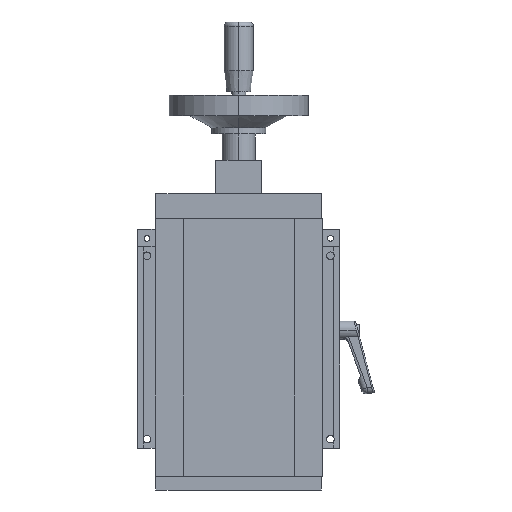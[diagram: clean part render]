
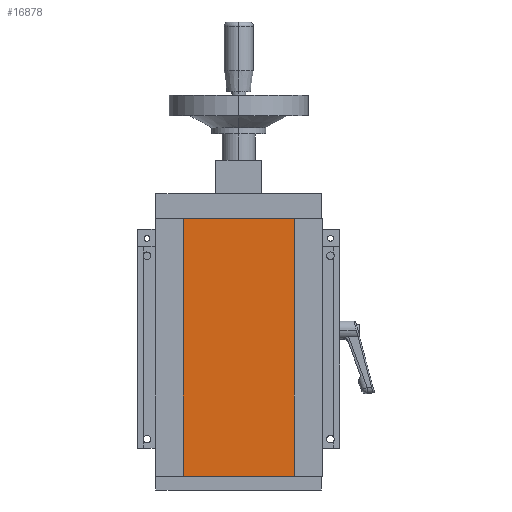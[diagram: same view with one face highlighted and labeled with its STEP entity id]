
A CAD part, front view. The second image highlights one B-rep face of the part: STEP entity #16878.
In plain terms, the highlighted planar face has unit normal (0, -1, 0).
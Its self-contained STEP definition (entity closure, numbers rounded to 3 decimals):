
#16878 = ADVANCED_FACE ( 'NONE', ( #15226 ), #15227, .F. ) ;
#4478 = VERTEX_POINT ( 'NONE', #11915 ) ;
#4727 = EDGE_CURVE ( 'NONE', #4478, #5709, #12046, .T. ) ;
#4855 = EDGE_CURVE ( 'NONE', #5829, #4478, #12121, .T. ) ;
#5262 = ORIENTED_EDGE ( 'NONE', *, *, #4855, .T. ) ;
#5709 = VERTEX_POINT ( 'NONE', #12569 ) ;
#5829 = VERTEX_POINT ( 'NONE', #12632 ) ;
#6074 = EDGE_CURVE ( 'NONE', #5829, #6407, #12844, .T. ) ;
#6290 = ORIENTED_EDGE ( 'NONE', *, *, #6074, .F. ) ;
#6407 = VERTEX_POINT ( 'NONE', #13490 ) ;
#6458 = EDGE_CURVE ( 'NONE', #6407, #5709, #13658, .T. ) ;
#6546 = ORIENTED_EDGE ( 'NONE', *, *, #6458, .F. ) ;
#6668 = ORIENTED_EDGE ( 'NONE', *, *, #4727, .T. ) ;
#6787 = EDGE_LOOP ( 'NONE', ( #6668, #6546, #6290, #5262 ) ) ;
#11915 = CARTESIAN_POINT ( 'NONE',  ( -41.155, 0., -92.5 ) ) ;
#12046 = LINE ( 'NONE', #12047, #12048 ) ;
#12047 = CARTESIAN_POINT ( 'NONE',  ( -41.155, 0., -92.5 ) ) ;
#12048 = VECTOR ( 'NONE', #12049, 1000. ) ;
#12049 = DIRECTION ( 'NONE',  ( 1., 0., 0. ) ) ;
#12121 = LINE ( 'NONE', #12122, #12123 ) ;
#12122 = CARTESIAN_POINT ( 'NONE',  ( -41.155, 0., 92.5 ) ) ;
#12123 = VECTOR ( 'NONE', #12124, 1000. ) ;
#12124 = DIRECTION ( 'NONE',  ( 0., 0., -1. ) ) ;
#12569 = CARTESIAN_POINT ( 'NONE',  ( 41.155, 0., -92.5 ) ) ;
#12632 = CARTESIAN_POINT ( 'NONE',  ( -41.155, 0., 92.5 ) ) ;
#12844 = LINE ( 'NONE', #12845, #12846 ) ;
#12845 = CARTESIAN_POINT ( 'NONE',  ( -41.155, 0., 92.5 ) ) ;
#12846 = VECTOR ( 'NONE', #12847, 1000. ) ;
#12847 = DIRECTION ( 'NONE',  ( 1., 0., 0. ) ) ;
#13490 = CARTESIAN_POINT ( 'NONE',  ( 41.155, 0., 92.5 ) ) ;
#13658 = LINE ( 'NONE', #13659, #13660 ) ;
#13659 = CARTESIAN_POINT ( 'NONE',  ( 41.155, 0., 92.5 ) ) ;
#13660 = VECTOR ( 'NONE', #13661, 1000. ) ;
#13661 = DIRECTION ( 'NONE',  ( 0., 0., -1. ) ) ;
#15226 = FACE_OUTER_BOUND ( 'NONE', #6787, .T. ) ;
#15227 = PLANE ( 'NONE',  #15228 ) ;
#15228 = AXIS2_PLACEMENT_3D ( 'NONE', #15229, #15230, #15231 ) ;
#15229 = CARTESIAN_POINT ( 'NONE',  ( -41.155, 0., 92.5 ) ) ;
#15230 = DIRECTION ( 'NONE',  ( 0., 1., 0. ) ) ;
#15231 = DIRECTION ( 'NONE',  ( 0., 0., 1. ) ) ;
